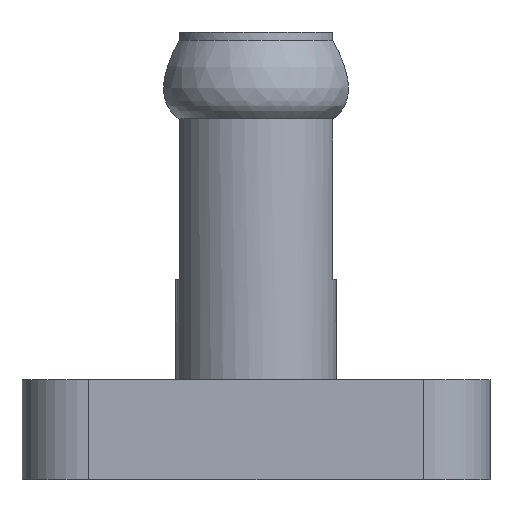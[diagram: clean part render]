
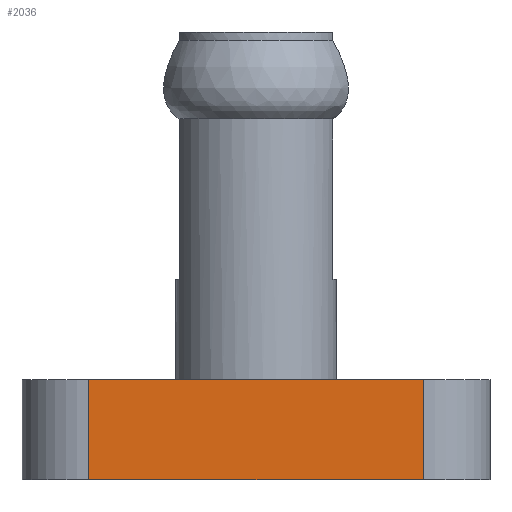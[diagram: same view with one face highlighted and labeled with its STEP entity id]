
A CAD part, left-side view. The second image highlights one B-rep face of the part: STEP entity #2036.
In plain terms, the highlighted planar face has unit normal (-1, 0, 0).
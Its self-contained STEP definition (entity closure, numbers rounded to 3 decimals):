
#45 = PLANE('',#46);
#46 = AXIS2_PLACEMENT_3D('',#47,#48,#49);
#47 = CARTESIAN_POINT('',(-3.5,-3.5,1.5));
#48 = DIRECTION('',(0.,0.,1.));
#49 = DIRECTION('',(1.,0.,0.));
#506 = EDGE_CURVE('',#507,#509,#511,.T.);
#507 = VERTEX_POINT('',#508);
#508 = CARTESIAN_POINT('',(-3.5,-2.5,1.5));
#509 = VERTEX_POINT('',#510);
#510 = CARTESIAN_POINT('',(-3.5,2.5,1.5));
#511 = SURFACE_CURVE('',#512,(#516,#523),.PCURVE_S1.);
#512 = LINE('',#513,#514);
#513 = CARTESIAN_POINT('',(-3.5,-3.5,1.5));
#514 = VECTOR('',#515,1.);
#515 = DIRECTION('',(0.,1.,0.));
#516 = PCURVE('',#45,#517);
#517 = DEFINITIONAL_REPRESENTATION('',(#518),#522);
#518 = LINE('',#519,#520);
#519 = CARTESIAN_POINT('',(0.,0.));
#520 = VECTOR('',#521,1.);
#521 = DIRECTION('',(0.,1.));
#522 = ( GEOMETRIC_REPRESENTATION_CONTEXT(2) 
PARAMETRIC_REPRESENTATION_CONTEXT() REPRESENTATION_CONTEXT('2D SPACE',''
  ) );
#523 = PCURVE('',#524,#529);
#524 = PLANE('',#525);
#525 = AXIS2_PLACEMENT_3D('',#526,#527,#528);
#526 = CARTESIAN_POINT('',(-3.5,-3.5,0.));
#527 = DIRECTION('',(1.,0.,0.));
#528 = DIRECTION('',(0.,0.,1.));
#529 = DEFINITIONAL_REPRESENTATION('',(#530),#534);
#530 = LINE('',#531,#532);
#531 = CARTESIAN_POINT('',(1.5,0.));
#532 = VECTOR('',#533,1.);
#533 = DIRECTION('',(0.,-1.));
#534 = ( GEOMETRIC_REPRESENTATION_CONTEXT(2) 
PARAMETRIC_REPRESENTATION_CONTEXT() REPRESENTATION_CONTEXT('2D SPACE',''
  ) );
#553 = CYLINDRICAL_SURFACE('',#554,1.);
#554 = AXIS2_PLACEMENT_3D('',#555,#556,#557);
#555 = CARTESIAN_POINT('',(-2.5,-2.5,0.));
#556 = DIRECTION('',(0.,0.,1.));
#557 = DIRECTION('',(-1.,-0.,0.));
#730 = CYLINDRICAL_SURFACE('',#731,1.);
#731 = AXIS2_PLACEMENT_3D('',#732,#733,#734);
#732 = CARTESIAN_POINT('',(-2.5,2.5,0.));
#733 = DIRECTION('',(0.,0.,1.));
#734 = DIRECTION('',(-1.,-0.,0.));
#2036 = ADVANCED_FACE('',(#2037),#524,.F.);
#2037 = FACE_BOUND('',#2038,.F.);
#2038 = EDGE_LOOP('',(#2039,#2040,#2063,#2091));
#2039 = ORIENTED_EDGE('',*,*,#506,.F.);
#2040 = ORIENTED_EDGE('',*,*,#2041,.F.);
#2041 = EDGE_CURVE('',#2042,#507,#2044,.T.);
#2042 = VERTEX_POINT('',#2043);
#2043 = CARTESIAN_POINT('',(-3.5,-2.5,0.));
#2044 = SURFACE_CURVE('',#2045,(#2049,#2056),.PCURVE_S1.);
#2045 = LINE('',#2046,#2047);
#2046 = CARTESIAN_POINT('',(-3.5,-2.5,0.));
#2047 = VECTOR('',#2048,1.);
#2048 = DIRECTION('',(0.,0.,1.));
#2049 = PCURVE('',#524,#2050);
#2050 = DEFINITIONAL_REPRESENTATION('',(#2051),#2055);
#2051 = LINE('',#2052,#2053);
#2052 = CARTESIAN_POINT('',(0.,-1.));
#2053 = VECTOR('',#2054,1.);
#2054 = DIRECTION('',(1.,0.));
#2055 = ( GEOMETRIC_REPRESENTATION_CONTEXT(2) 
PARAMETRIC_REPRESENTATION_CONTEXT() REPRESENTATION_CONTEXT('2D SPACE',''
  ) );
#2056 = PCURVE('',#553,#2057);
#2057 = DEFINITIONAL_REPRESENTATION('',(#2058),#2062);
#2058 = LINE('',#2059,#2060);
#2059 = CARTESIAN_POINT('',(0.,0.));
#2060 = VECTOR('',#2061,1.);
#2061 = DIRECTION('',(0.,1.));
#2062 = ( GEOMETRIC_REPRESENTATION_CONTEXT(2) 
PARAMETRIC_REPRESENTATION_CONTEXT() REPRESENTATION_CONTEXT('2D SPACE',''
  ) );
#2063 = ORIENTED_EDGE('',*,*,#2064,.T.);
#2064 = EDGE_CURVE('',#2042,#2065,#2067,.T.);
#2065 = VERTEX_POINT('',#2066);
#2066 = CARTESIAN_POINT('',(-3.5,2.5,0.));
#2067 = SURFACE_CURVE('',#2068,(#2072,#2079),.PCURVE_S1.);
#2068 = LINE('',#2069,#2070);
#2069 = CARTESIAN_POINT('',(-3.5,-3.5,0.));
#2070 = VECTOR('',#2071,1.);
#2071 = DIRECTION('',(0.,1.,0.));
#2072 = PCURVE('',#524,#2073);
#2073 = DEFINITIONAL_REPRESENTATION('',(#2074),#2078);
#2074 = LINE('',#2075,#2076);
#2075 = CARTESIAN_POINT('',(0.,0.));
#2076 = VECTOR('',#2077,1.);
#2077 = DIRECTION('',(0.,-1.));
#2078 = ( GEOMETRIC_REPRESENTATION_CONTEXT(2) 
PARAMETRIC_REPRESENTATION_CONTEXT() REPRESENTATION_CONTEXT('2D SPACE',''
  ) );
#2079 = PCURVE('',#2080,#2085);
#2080 = PLANE('',#2081);
#2081 = AXIS2_PLACEMENT_3D('',#2082,#2083,#2084);
#2082 = CARTESIAN_POINT('',(-3.5,-3.5,0.));
#2083 = DIRECTION('',(0.,0.,1.));
#2084 = DIRECTION('',(1.,0.,0.));
#2085 = DEFINITIONAL_REPRESENTATION('',(#2086),#2090);
#2086 = LINE('',#2087,#2088);
#2087 = CARTESIAN_POINT('',(0.,0.));
#2088 = VECTOR('',#2089,1.);
#2089 = DIRECTION('',(0.,1.));
#2090 = ( GEOMETRIC_REPRESENTATION_CONTEXT(2) 
PARAMETRIC_REPRESENTATION_CONTEXT() REPRESENTATION_CONTEXT('2D SPACE',''
  ) );
#2091 = ORIENTED_EDGE('',*,*,#2092,.T.);
#2092 = EDGE_CURVE('',#2065,#509,#2093,.T.);
#2093 = SURFACE_CURVE('',#2094,(#2098,#2105),.PCURVE_S1.);
#2094 = LINE('',#2095,#2096);
#2095 = CARTESIAN_POINT('',(-3.5,2.5,0.));
#2096 = VECTOR('',#2097,1.);
#2097 = DIRECTION('',(0.,0.,1.));
#2098 = PCURVE('',#524,#2099);
#2099 = DEFINITIONAL_REPRESENTATION('',(#2100),#2104);
#2100 = LINE('',#2101,#2102);
#2101 = CARTESIAN_POINT('',(0.,-6.));
#2102 = VECTOR('',#2103,1.);
#2103 = DIRECTION('',(1.,0.));
#2104 = ( GEOMETRIC_REPRESENTATION_CONTEXT(2) 
PARAMETRIC_REPRESENTATION_CONTEXT() REPRESENTATION_CONTEXT('2D SPACE',''
  ) );
#2105 = PCURVE('',#730,#2106);
#2106 = DEFINITIONAL_REPRESENTATION('',(#2107),#2111);
#2107 = LINE('',#2108,#2109);
#2108 = CARTESIAN_POINT('',(-0.,0.));
#2109 = VECTOR('',#2110,1.);
#2110 = DIRECTION('',(-0.,1.));
#2111 = ( GEOMETRIC_REPRESENTATION_CONTEXT(2) 
PARAMETRIC_REPRESENTATION_CONTEXT() REPRESENTATION_CONTEXT('2D SPACE',''
  ) );
